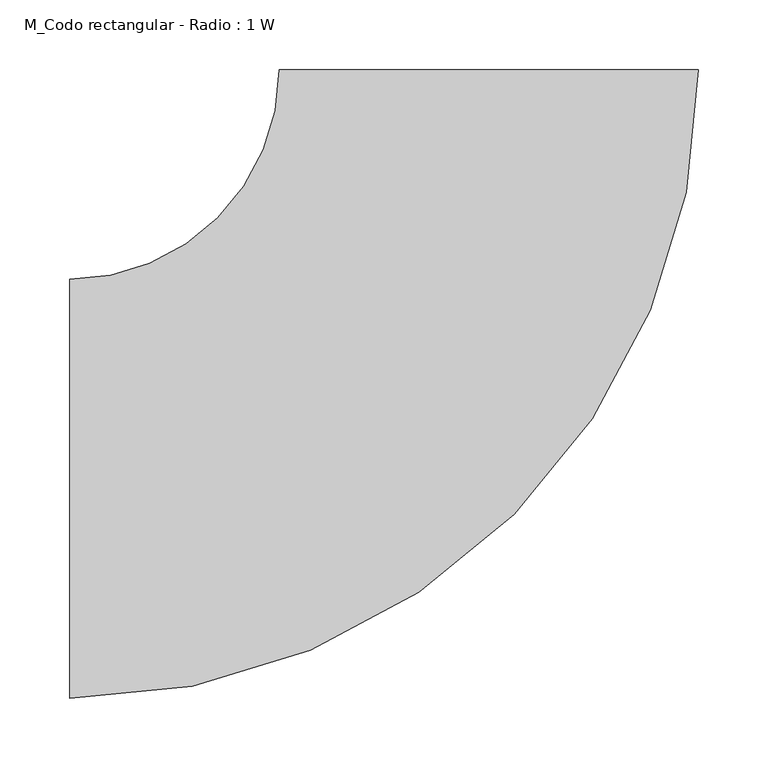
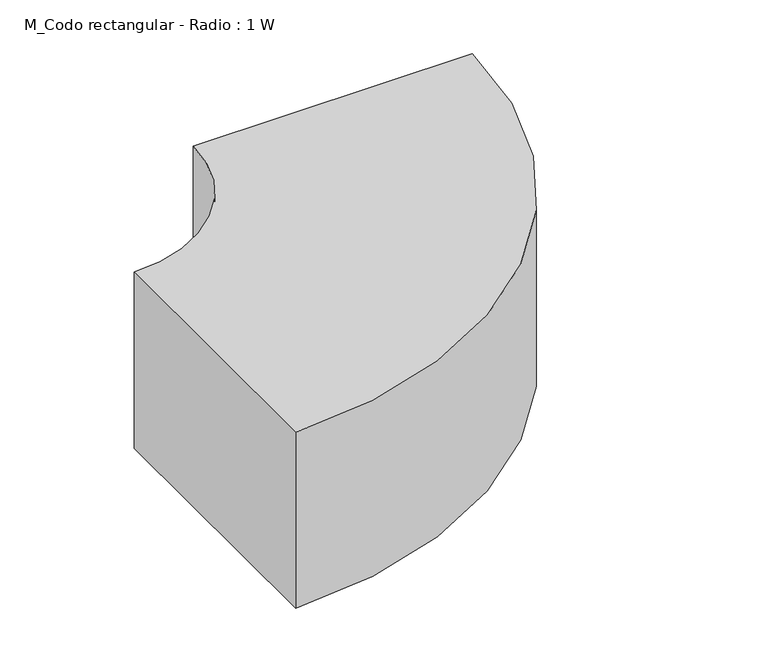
"""IFC4 building model written with IfcOpenShell, lengths in millimetres: duct fitting geometry, M_Codo rectangular - Radio : 1 W."""

from ifc_helpers import new_model, si_unit, point, frame, frame_2d, origin, place, context, project, spatial, polyline, circle_curve, trimmed, segment, composite_curve, outline, extrude, source, transform, mapped, element, save


def m_codo_rectangular_radio_1_w_bbb09cf3(model_context):
    return source(origin(), model_context, "Body", "SweptSolid", [
        extrude(outline(composite_curve([segment(trimmed(circle_curve(frame_2d((-300.0, 300.0)), 450.0), [point((150.0, 300.0))], [point((-300.0, -150.0))], False, "CARTESIAN"), True, "CONTINUOUS"), segment(polyline([(-300.0, -150.0), (-300.0, 150.0)]), True, "CONTINUOUS"), segment(trimmed(circle_curve(frame_2d((-300.0, 300.0)), 150.0), [point((-300.0, 150.0))], [point((-150.0, 300.0))], True, "CARTESIAN"), True, "CONTINUOUS"), segment(polyline([(-150.0, 300.0), (150.0, 300.0)]), True, "CONTINUOUS")], self_intersect=False)), frame((0.0, 0.0, -100.0), z_axis=(0.0, 0.0, 1.0), x_axis=(1.0, 0.0, 0.0)), (0.0, 0.0, 1.0), 200.0),
    ])


if __name__ == "__main__":
    model = new_model("IFC4")
    model_context = context("Model", 3, world=origin())
    ifc_project = project(units=[si_unit("LENGTHUNIT", "METRE", prefix="MILLI")], contexts=[model_context])
    site = spatial("IfcSite", under=ifc_project)
    building = spatial("IfcBuilding", under=site)
    placement = place(None, origin())
    m_codo_rectangular_radio_1_w_shape = m_codo_rectangular_radio_1_w_bbb09cf3(model_context)
    element("IfcDuctFitting", 1, ObjectType="M_Codo rectangular - Radio : 1 W", at=placement, inside=building, context=model_context, shape_type="MappedRepresentation", body=[
        mapped(m_codo_rectangular_radio_1_w_shape, transform((0.0, 0.0, 0.0), x_axis=(1.0, 0.0, 0.0), y_axis=(0.0, 1.0, 0.0), z_axis=(0.0, 0.0, 1.0))),
    ])
    save(model, "model.ifc")
